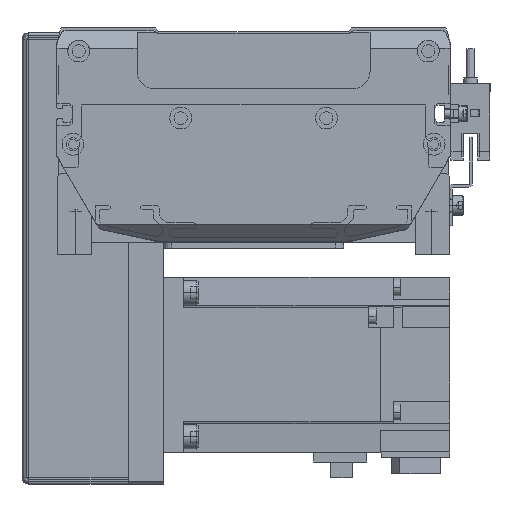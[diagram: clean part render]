
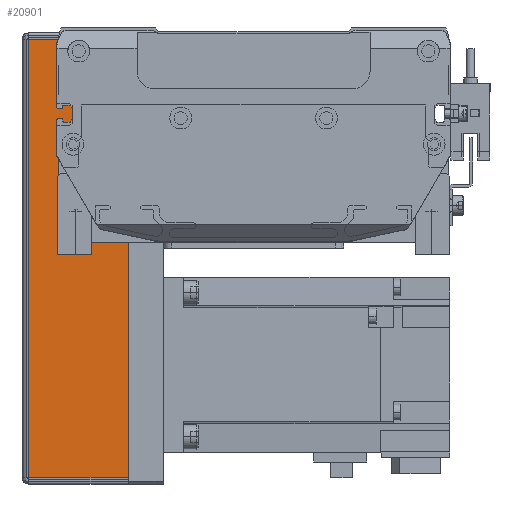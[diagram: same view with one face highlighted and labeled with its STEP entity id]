
A CAD part, front view. The second image highlights one B-rep face of the part: STEP entity #20901.
In plain terms, the highlighted planar face has unit normal (0, -1, 0) as drawn and (0, 1, 0) by its records, which use the part's own axes.
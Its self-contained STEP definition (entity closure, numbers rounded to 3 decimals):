
#342 = VERTEX_POINT ( 'NONE', #30644 ) ;
#4179 = LINE ( 'NONE', #22890, #13774 ) ;
#5271 = DIRECTION ( 'NONE',  ( -1., 0., 0. ) ) ;
#5453 = DIRECTION ( 'NONE',  ( 0., 0., -1. ) ) ;
#6318 = ORIENTED_EDGE ( 'NONE', *, *, #7198, .F. ) ;
#7198 = EDGE_CURVE ( 'NONE', #32884, #19326, #41626, .T. ) ;
#9532 = ORIENTED_EDGE ( 'NONE', *, *, #35135, .F. ) ;
#10444 = CARTESIAN_POINT ( 'NONE',  ( 115.793, 37., 36.5 ) ) ;
#11138 = CARTESIAN_POINT ( 'NONE',  ( 115.793, 37., 0. ) ) ;
#13165 = VERTEX_POINT ( 'NONE', #11138 ) ;
#13774 = VECTOR ( 'NONE', #42865, 1000. ) ;
#13991 = DIRECTION ( 'NONE',  ( 0., 0., -1. ) ) ;
#16779 = VECTOR ( 'NONE', #5453, 1000. ) ;
#18699 = LINE ( 'NONE', #10444, #37733 ) ;
#19326 = VERTEX_POINT ( 'NONE', #38426 ) ;
#19519 = FACE_OUTER_BOUND ( 'NONE', #42534, .T. ) ;
#19976 = CARTESIAN_POINT ( 'NONE',  ( -162.166, 37., 36.5 ) ) ;
#20901 = ADVANCED_FACE ( 'NONE', ( #19519 ), #40235, .F. ) ;
#20991 = ORIENTED_EDGE ( 'NONE', *, *, #36254, .T. ) ;
#22890 = CARTESIAN_POINT ( 'NONE',  ( -37., 37., 34.263 ) ) ;
#23497 = DIRECTION ( 'NONE',  ( 0., -1., 0. ) ) ;
#26882 = AXIS2_PLACEMENT_3D ( 'NONE', #19976, #23497, #26908 ) ;
#26908 = DIRECTION ( 'NONE',  ( 0., 0., -1. ) ) ;
#27938 = ORIENTED_EDGE ( 'NONE', *, *, #38990, .T. ) ;
#29029 = CARTESIAN_POINT ( 'NONE',  ( -34.793, 37., 35. ) ) ;
#30644 = CARTESIAN_POINT ( 'NONE',  ( 115.793, 37., 34.263 ) ) ;
#32884 = VERTEX_POINT ( 'NONE', #35170 ) ;
#33306 = LINE ( 'NONE', #39639, #39688 ) ;
#35135 = EDGE_CURVE ( 'NONE', #342, #32884, #4179, .T. ) ;
#35170 = CARTESIAN_POINT ( 'NONE',  ( -34.793, 37., 34.263 ) ) ;
#36254 = EDGE_CURVE ( 'NONE', #342, #13165, #18699, .T. ) ;
#37733 = VECTOR ( 'NONE', #13991, 1000. ) ;
#38426 = CARTESIAN_POINT ( 'NONE',  ( -34.793, 37., 0. ) ) ;
#38990 = EDGE_CURVE ( 'NONE', #13165, #19326, #33306, .T. ) ;
#39639 = CARTESIAN_POINT ( 'NONE',  ( -162.166, 37., 0. ) ) ;
#39688 = VECTOR ( 'NONE', #5271, 1000. ) ;
#40235 = PLANE ( 'NONE',  #26882 ) ;
#41626 = LINE ( 'NONE', #29029, #16779 ) ;
#42534 = EDGE_LOOP ( 'NONE', ( #6318, #9532, #20991, #27938 ) ) ;
#42865 = DIRECTION ( 'NONE',  ( -1., 0., 0. ) ) ;
